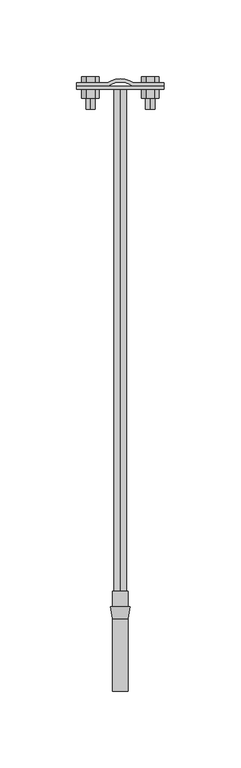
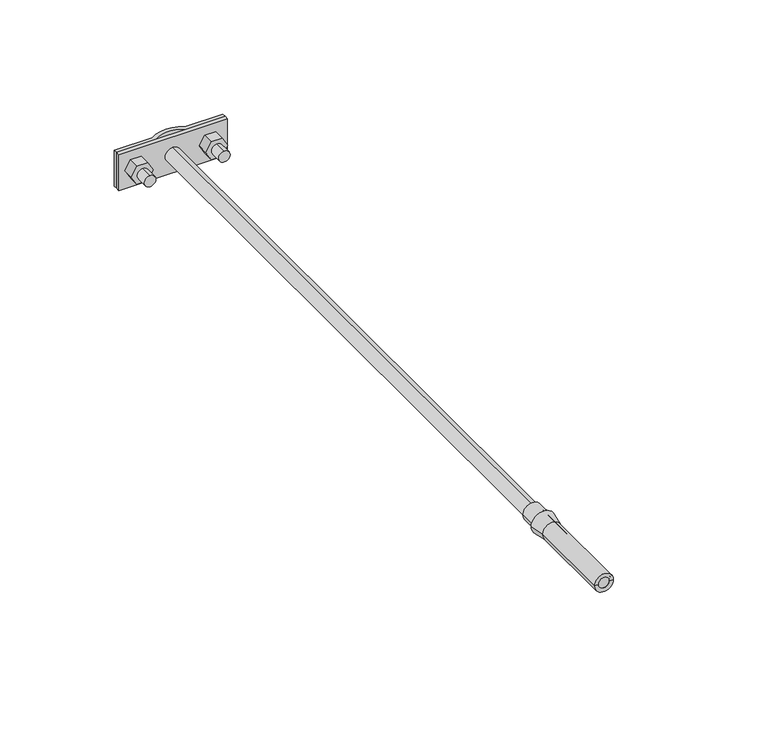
"""IFC4 building model written with IfcOpenShell, lengths in millimetres: proxy geometry, КНС_ДержательФасадный_DKC : ND2302_Горячеоцинкованная сталь_400 мм."""

from ifc_helpers import new_model, si_unit, point, frame, frame_2d, origin, origin_2d, place, context, project, spatial, polyline, circle_curve, trimmed, segment, composite_curve, outline, extrude, source, transform, mapped, element, save
from ifc_brep_helpers import plane_surface, cylinder_surface, revolved_surface, advanced_brep


def security_devices_21056cdb(model_context):
    return source(origin(), model_context, "Body", "SolidModel", [
        advanced_brep(
        [(6.3810583, -10.0, 0.0), (-6.3810583, -10.0, 0.0), (-5.0, -10.0, 0.0), (5.0, -10.0, 0.0), (5.0, -17.8323707, 0.0), (-5.0, -17.8323707, 0.0), (5.0, -65.0, 0.0), (-5.0, -65.0, 0.0), (3.0, -65.0, 0.0), (-3.0, -65.0, 0.0), (3.0, 0.0, 0.0), (-3.0, 0.0, 0.0), (5.0, 0.0, 0.0), (-5.0, 0.0, 0.0)],
        [
            (0, 1, circle_curve(frame((0.0, -10.0, 0.0), z_axis=(0.0, 1.0, 0.0), x_axis=(-1.0, 0.0, 0.0)), 6.3810583)),
            (1, 2),
            (2, 3, circle_curve(frame((0.0, -10.0, 0.0), z_axis=(0.0, -1.0, 0.0), x_axis=(-1.0, 0.0, 0.0)), 5.0)),
            (3, 0),
            (1, 0, circle_curve(frame((0.0, -10.0, 0.0), z_axis=(0.0, 1.0, 0.0), x_axis=(-1.0, 0.0, 0.0)), 6.3810583)),
            (3, 2, circle_curve(frame((0.0, -10.0, 0.0), z_axis=(0.0, -1.0, 0.0), x_axis=(-1.0, 0.0, 0.0)), 5.0)),
            (4, 5, circle_curve(frame((0.0, -17.8323707, 0.0), z_axis=(0.0, 1.0, 0.0), x_axis=(-1.0, 0.0, 0.0)), 5.0)),
            (5, 1),
            (0, 4),
            (5, 4, circle_curve(frame((0.0, -17.8323707, 0.0), z_axis=(0.0, 1.0, 0.0), x_axis=(-1.0, 0.0, 0.0)), 5.0)),
            (6, 7, circle_curve(frame((0.0, -65.0, 0.0), z_axis=(0.0, 1.0, 0.0), x_axis=(-1.0, 0.0, 0.0)), 5.0)),
            (7, 5),
            (4, 6),
            (7, 6, circle_curve(frame((0.0, -65.0, 0.0), z_axis=(0.0, 1.0, 0.0), x_axis=(-1.0, 0.0, 0.0)), 5.0)),
            (8, 9, circle_curve(frame((0.0, -65.0, 0.0), z_axis=(0.0, 1.0, 0.0), x_axis=(-1.0, 0.0, 0.0)), 3.0)),
            (9, 7),
            (6, 8),
            (9, 8, circle_curve(frame((0.0, -65.0, 0.0), z_axis=(0.0, 1.0, 0.0), x_axis=(-1.0, 0.0, 0.0)), 3.0)),
            (10, 11, circle_curve(frame((0.0, 0.0, 0.0), z_axis=(0.0, 1.0, 0.0), x_axis=(-1.0, 0.0, 0.0)), 3.0)),
            (11, 9),
            (8, 10),
            (11, 10, circle_curve(frame((0.0, 0.0, 0.0), z_axis=(0.0, 1.0, 0.0), x_axis=(-1.0, 0.0, 0.0)), 3.0)),
            (12, 13, circle_curve(frame((0.0, 0.0, 0.0), z_axis=(0.0, 1.0, 0.0), x_axis=(-1.0, 0.0, 0.0)), 5.0)),
            (13, 11),
            (10, 12),
            (13, 12, circle_curve(frame((0.0, 0.0, 0.0), z_axis=(0.0, 1.0, 0.0), x_axis=(-1.0, 0.0, 0.0)), 5.0)),
            (2, 13),
            (12, 3),
        ],
        [
            plane_surface(frame((0.0, -10.0, 0.0), z_axis=(0.0, 1.0, 0.0), x_axis=(-1.0, 0.0, 0.0))),
            revolved_surface(polyline([(-6.3810583, -10.0, 0.0), (-5.0, -17.8323707, 0.0)]), (0.0, 2000.0, 0.0), (0.0, -1.0, 0.0)),
            cylinder_surface(frame((0.0, 2000.0, 0.0), z_axis=(0.0, -1.0, 0.0), x_axis=(-1.0, 0.0, 0.0)), 5.0),
            plane_surface(frame((0.0, -65.0, 0.0), z_axis=(0.0, -1.0, 0.0), x_axis=(-1.0, 0.0, 0.0))),
            revolved_surface(polyline([(-3.0, -65.0, 0.0), (-3.0, 0.0, 0.0)]), (0.0, 2000.0, 0.0), (0.0, -1.0, 0.0)),
            plane_surface(frame((0.0, 0.0, 0.0), z_axis=(0.0, 1.0, 0.0), x_axis=(-1.0, 0.0, 0.0))),
        ],
        [
            (0, [[1, 2, 3, 4]]),
            (0, [[5, -4, 6, -2]]),
            (1, [[7, 8, -1, 9]]),
            (1, [[10, -9, -5, -8]]),
            (2, [[11, 12, -7, 13]]),
            (2, [[14, -13, -10, -12]]),
            (3, [[15, 16, -11, 17]]),
            (3, [[18, -17, -14, -16]]),
            (4, [[19, 20, -15, 21]]),
            (4, [[22, -21, -18, -20]]),
            (5, [[23, 24, -19, 25]]),
            (5, [[26, -25, -22, -24]]),
            (2, [[-3, 27, -23, 28]]),
            (2, [[-6, -28, -26, -27]]),
        ],
    ),
        extrude(outline(polyline([(0.0, 25.2735027), (5.0, 22.3867513), (5.0, 16.6132487), (0.0, 13.7264973), (-5.0, 16.6132487), (-5.0, 22.3867513), (0.0, 25.2735027)])), frame((0.0, 321.0, 0.0), z_axis=(0.0, 1.0, 0.0), x_axis=(0.0, 0.0, 1.0)), (0.0, 0.0, 1.0), 6.0),
        extrude(outline(polyline([(0.0, -13.7264973), (5.0, -16.6132487), (5.0, -22.3867513), (0.0, -25.2735027), (-5.0, -22.3867513), (-5.0, -16.6132487), (0.0, -13.7264973)])), frame((0.0, 321.0, 0.0), z_axis=(0.0, 1.0, 0.0), x_axis=(0.0, 0.0, 1.0)), (0.0, 0.0, 1.0), 6.0),
        extrude(outline(composite_curve([segment(trimmed(circle_curve(frame_2d((0.0, 19.5)), 3.0), [point((-3.0, 19.5))], [point((3.0, 19.5))], False, "CARTESIAN"), True, "CONTINUOUS"), segment(trimmed(circle_curve(frame_2d((0.0, 19.5)), 3.0), [point((3.0, 19.5))], [point((-3.0, 19.5))], False, "CARTESIAN"), True, "CONTINUOUS")], self_intersect=False)), frame((0.0, 314.0, 0.0), z_axis=(0.0, 1.0, 0.0), x_axis=(0.0, 0.0, 1.0)), (0.0, 0.0, 1.0), 13.0),
        extrude(outline(polyline([(0.0, 25.2735027), (5.0, 22.3867513), (5.0, 16.6132487), (0.0, 13.7264973), (-5.0, 16.6132487), (-5.0, 22.3867513), (0.0, 25.2735027)])), frame((0.0, 331.0, 0.0), z_axis=(0.0, 1.0, 0.0), x_axis=(0.0, 0.0, 1.0)), (0.0, 0.0, 1.0), 4.0),
        extrude(outline(polyline([(0.0, -13.7264973), (5.0, -16.6132487), (5.0, -22.3867513), (0.0, -25.2735027), (-5.0, -22.3867513), (-5.0, -16.6132487), (0.0, -13.7264973)])), frame((0.0, 331.0, 0.0), z_axis=(0.0, 1.0, 0.0), x_axis=(0.0, 0.0, 1.0)), (0.0, 0.0, 1.0), 4.0),
        extrude(outline(composite_curve([segment(trimmed(circle_curve(frame_2d((0.0, -19.5)), 3.0), [point((-3.0, -19.5))], [point((3.0, -19.5))], False, "CARTESIAN"), True, "CONTINUOUS"), segment(trimmed(circle_curve(frame_2d((0.0, -19.5)), 3.0), [point((3.0, -19.5))], [point((-3.0, -19.5))], False, "CARTESIAN"), True, "CONTINUOUS")], self_intersect=False)), frame((0.0, 314.0, 0.0), z_axis=(0.0, 1.0, 0.0), x_axis=(0.0, 0.0, 1.0)), (0.0, 0.0, 1.0), 13.0),
        extrude(outline(composite_curve([segment(trimmed(circle_curve(origin_2d(), 4.0), [point((-4.0, 0.0))], [point((4.0, 0.0))], False, "CARTESIAN"), True, "CONTINUOUS"), segment(trimmed(circle_curve(origin_2d(), 4.0), [point((4.0, 0.0))], [point((-4.0, 0.0))], False, "CARTESIAN"), True, "CONTINUOUS")], self_intersect=False)), frame((0.0, -65.0, 0.0), z_axis=(0.0, 1.0, 0.0), x_axis=(0.0, 0.0, 1.0)), (0.0, 0.0, 1.0), 392.0),
        extrude(outline(polyline([(-28.5, 327.0), (-28.5, 329.0), (28.5, 329.0), (28.5, 327.0), (-28.5, 327.0)])), frame((0.0, 0.0, -10.0), z_axis=(0.0, 0.0, 1.0), x_axis=(1.0, 0.0, 0.0)), (0.0, 0.0, 1.0), 20.0),
        extrude(outline(composite_curve([segment(trimmed(circle_curve(frame_2d((0.0, 318.8700945)), 14.8116376), [point((-8.5, 331.0))], [point((8.5, 331.0))], False, "CARTESIAN"), True, "CONTINUOUS"), segment(polyline([(8.5, 331.0), (28.5, 331.0), (28.5, 329.0), (7.9035116, 329.0)]), True, "CONTINUOUS"), segment(trimmed(circle_curve(frame_2d((0.0, 318.3768959)), 13.2406887), [point((7.9035116, 329.0))], [point((-7.9035116, 329.0))], True, "CARTESIAN"), True, "CONTINUOUS"), segment(polyline([(-7.9035116, 329.0), (-28.5, 329.0), (-28.5, 331.0), (-8.5, 331.0)]), True, "CONTINUOUS")], self_intersect=False)), frame((0.0, 0.0, -10.0), z_axis=(0.0, 0.0, 1.0), x_axis=(1.0, 0.0, 0.0)), (0.0, 0.0, 1.0), 20.0),
    ])


if __name__ == "__main__":
    model = new_model("IFC4")
    model_context = context("Model", 3, world=origin())
    ifc_project = project(units=[si_unit("LENGTHUNIT", "METRE", prefix="MILLI")], contexts=[model_context])
    site = spatial("IfcSite", under=ifc_project)
    building = spatial("IfcBuilding", under=site)
    placement = place(None, origin())
    security_devices_shape = security_devices_21056cdb(model_context)
    element("IfcBuildingElementProxy", 1, Name="КНС_ДержательФасадный_DKC : ND2302_Горячеоцинкованная сталь_400 мм", ObjectType="КНС_ДержательФасадный_DKC : ND2302_Горячеоцинкованная сталь_400 мм", at=placement, inside=building, context=model_context, shape_type="MappedRepresentation", body=[
        mapped(security_devices_shape, transform((0.0, 0.0, 0.0), x_axis=(1.0, 0.0, 0.0), y_axis=(0.0, 1.0, 0.0), z_axis=(0.0, 0.0, 1.0))),
    ])
    save(model, "model.ifc")
